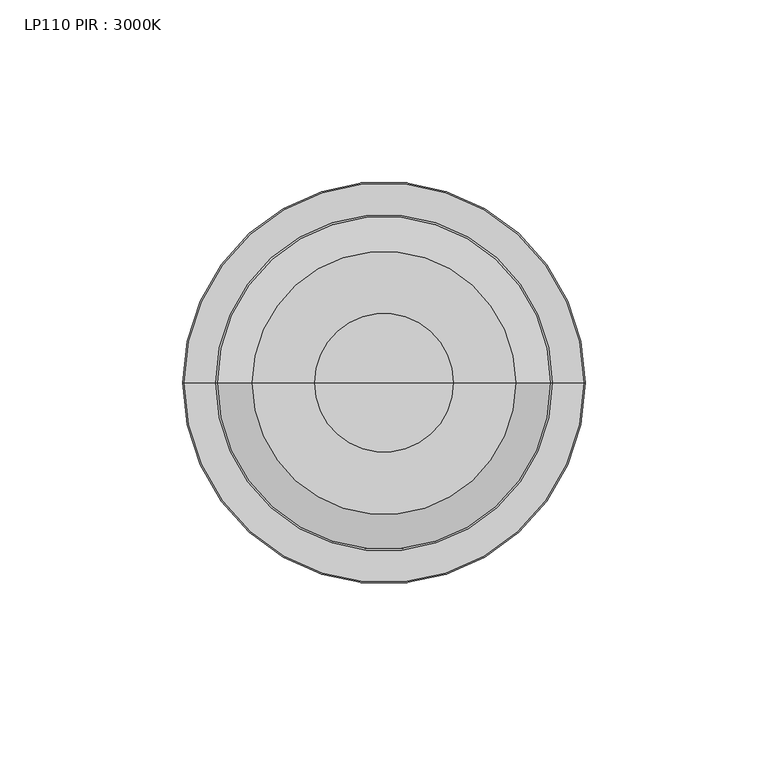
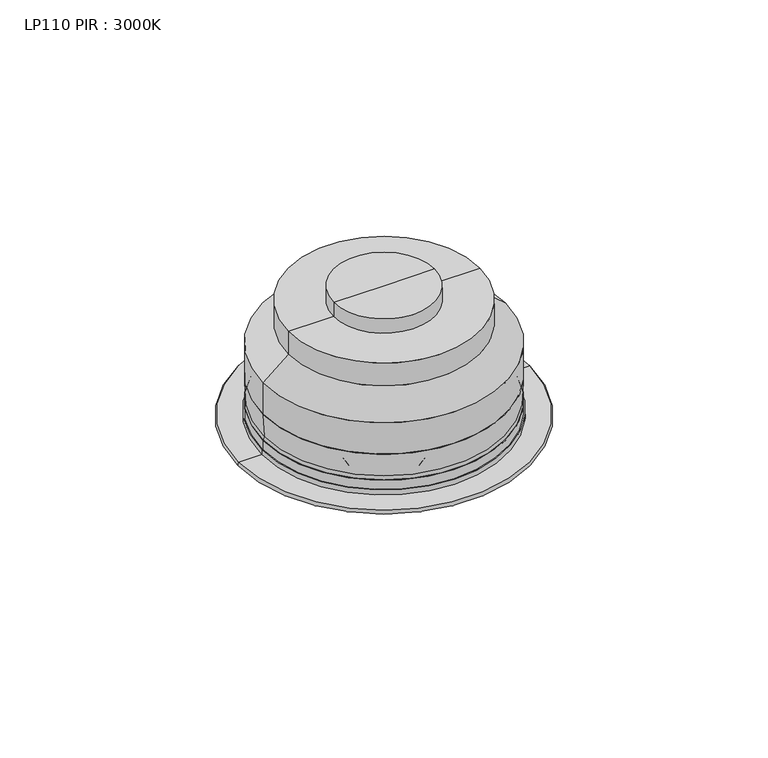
"""IFC4 building model written with IfcOpenShell, lengths in millimetres: light fixture geometry, LP110 PIR : 3000K."""

from ifc_helpers import new_model, si_unit, point, frame, frame_2d, origin, place, context, project, spatial, polyline, circle_curve, ellipse_curve, trimmed, segment, composite_curve, outline, extrude, source, transform, mapped, element, save
from ifc_brep_helpers import plane_surface, cylinder_surface, revolved_surface, advanced_brep


def lp110_pir_3000k_2e62d450(model_context):
    return source(origin(), model_context, "Body", "SolidModel", [
        advanced_brep(
        [(15.3930491, 0.0, 3987.9458918), (-15.3930491, 0.0, 3987.9458918), (0.0, 0.0, 3987.9458918), (14.8999618, 0.0, 3986.8884626), (-14.8999618, 0.0, 3986.8884626), (0.0, 0.0, 3976.9050825)],
        [
            (0, 1, circle_curve(frame((0.0, 0.0, 3987.9458918), z_axis=(0.0, 0.0, 1.0), x_axis=(-1.0, 0.0, 0.0)), 15.3930491)),
            (1, 2),
            (2, 0),
            (1, 0, circle_curve(frame((0.0, 0.0, 3987.9458918), z_axis=(0.0, 0.0, 1.0), x_axis=(-1.0, 0.0, 0.0)), 15.3930491)),
            (3, 4, circle_curve(frame((0.0, 0.0, 3986.8884626), z_axis=(0.0, 0.0, 1.0), x_axis=(-1.0, 0.0, 0.0)), 14.8999618)),
            (4, 1),
            (0, 3),
            (4, 3, circle_curve(frame((0.0, 0.0, 3986.8884626), z_axis=(0.0, 0.0, 1.0), x_axis=(-1.0, 0.0, 0.0)), 14.8999618)),
            (5, 4, circle_curve(frame((0.7998036, 0.0, 3994.2093834), z_axis=(0.0, 1.0, 0.0), x_axis=(1.0, 0.0, 0.0)), 17.3227744)),
            (3, 5, circle_curve(frame((-0.7998036, 0.0, 3994.2093834), z_axis=(0.0, 1.0, 0.0), x_axis=(-1.0, 0.0, 0.0)), 17.3227744)),
        ],
        [
            plane_surface(frame((0.0, 0.0, 3987.9458918), z_axis=(0.0, 0.0, 1.0), x_axis=(-1.0, 0.0, 0.0))),
            revolved_surface(polyline([(-15.3930491, 0.0, 3987.9458918), (-14.8999618, 0.0, 3986.8884626)]), (0.0, 0.0, 4324.4347907), (0.0, 0.0, -1.0)),
            revolved_surface(trimmed(ellipse_curve(frame((0.7998036, 0.0, 3994.2093834), z_axis=(0.0, -1.0, 0.0), x_axis=(1.0, 0.0, 0.0)), 17.3227744, 17.3227744), [point((-14.8999618, 0.0, 3986.8884626))], [point((0.0, 0.0, 3976.9050825))], True, "CARTESIAN"), (0.0, 0.0, 4324.4347907), (0.0, 0.0, -1.0)),
        ],
        [
            (0, [[1, 2, 3]]),
            (0, [[4, -3, -2]]),
            (1, [[5, 6, -1, 7]]),
            (1, [[8, -7, -4, -6]]),
            (2, [[9, -5, 10]]),
            (2, [[-10, -8, -9]]),
        ],
    ),
        advanced_brep(
        [(25.068584, 0.0, 3992.3208918), (-25.068584, 0.0, 3992.3208918), (0.0, 0.0, 3992.3208918), (15.3930491, 0.0, 3987.9458918), (-15.3930491, 0.0, 3987.9458918), (0.0, 0.0, 3987.9458918)],
        [
            (0, 1, circle_curve(frame((0.0, 0.0, 3992.3208918), z_axis=(0.0, 0.0, 1.0), x_axis=(-1.0, 0.0, 0.0)), 25.068584)),
            (1, 2),
            (2, 0),
            (1, 0, circle_curve(frame((0.0, 0.0, 3992.3208918), z_axis=(0.0, 0.0, 1.0), x_axis=(-1.0, 0.0, 0.0)), 25.068584)),
            (3, 4, circle_curve(frame((0.0, 0.0, 3987.9458918), z_axis=(0.0, 0.0, 1.0), x_axis=(-1.0, 0.0, 0.0)), 15.3930491)),
            (4, 1),
            (0, 3),
            (4, 3, circle_curve(frame((0.0, 0.0, 3987.9458918), z_axis=(0.0, 0.0, 1.0), x_axis=(-1.0, 0.0, 0.0)), 15.3930491)),
            (5, 4),
            (3, 5),
        ],
        [
            plane_surface(frame((0.0, 0.0, 3992.3208918), z_axis=(0.0, 0.0, 1.0), x_axis=(-1.0, 0.0, 0.0))),
            revolved_surface(polyline([(-25.068584, 0.0, 3992.3208918), (-15.3930491, 0.0, 3987.9458918)]), (0.0, 0.0, 4324.4347907), (0.0, 0.0, -1.0)),
            plane_surface(frame((0.0, 0.0, 3987.9458918), z_axis=(0.0, 0.0, -1.0), x_axis=(-1.0, 0.0, 0.0))),
        ],
        [
            (0, [[1, 2, 3]]),
            (0, [[4, -3, -2]]),
            (1, [[5, 6, -1, 7]]),
            (1, [[8, -7, -4, -6]]),
            (2, [[9, -5, 10]]),
            (2, [[-10, -8, -9]]),
        ],
    ),
        advanced_brep(
        [(25.068584, 0.0, 3992.3208918), (-25.068584, 0.0, 3992.3208918), (-30.7872894, 0.0, 3994.29), (30.7872894, 0.0, 3994.29), (0.0, 0.0, 3992.3208918), (0.0, 0.0, 3994.29)],
        [
            (0, 1, circle_curve(frame((0.0, 0.0, 3992.3208918), z_axis=(0.0, 0.0, 1.0), x_axis=(-1.0, 0.0, 0.0)), 25.068584)),
            (1, 2),
            (2, 3, circle_curve(frame((0.0, 0.0, 3994.29), z_axis=(0.0, 0.0, -1.0), x_axis=(-1.0, 0.0, 0.0)), 30.7872894)),
            (3, 0),
            (1, 0, circle_curve(frame((0.0, 0.0, 3992.3208918), z_axis=(0.0, 0.0, 1.0), x_axis=(-1.0, 0.0, 0.0)), 25.068584)),
            (3, 2, circle_curve(frame((0.0, 0.0, 3994.29), z_axis=(0.0, 0.0, -1.0), x_axis=(-1.0, 0.0, 0.0)), 30.7872894)),
            (4, 1),
            (0, 4),
            (2, 5),
            (5, 3),
        ],
        [
            revolved_surface(polyline([(-30.7872894, 0.0, 3994.29), (-25.068584, 0.0, 3992.3208918)]), (0.0, 0.0, 4324.4347907), (0.0, 0.0, -1.0)),
            plane_surface(frame((0.0, 0.0, 3992.3208918), z_axis=(0.0, 0.0, -1.0), x_axis=(-1.0, 0.0, 0.0))),
            plane_surface(frame((0.0, 0.0, 3994.29), z_axis=(0.0, 0.0, 1.0), x_axis=(-1.0, 0.0, 0.0))),
        ],
        [
            (0, [[1, 2, 3, 4]]),
            (0, [[5, -4, 6, -2]]),
            (1, [[7, -1, 8]]),
            (1, [[-8, -5, -7]]),
            (2, [[-3, 9, 10]]),
            (2, [[-6, -10, -9]]),
        ],
    ),
        advanced_brep(
        [(-18.9752528, 0.0, 4045.33), (18.9752528, 0.0, 4045.33), (0.0, 0.0, 4045.33), (-18.9752528, 0.0, 4050.97), (18.9752528, 0.0, 4050.97), (0.0, 0.0, 4050.97)],
        [
            (0, 1, circle_curve(frame((0.0, 0.0, 4045.33), z_axis=(0.0, 0.0, -1.0), x_axis=(1.0, 0.0, 0.0)), 18.9752528)),
            (1, 2),
            (2, 0),
            (1, 0, circle_curve(frame((0.0, 0.0, 4045.33), z_axis=(0.0, 0.0, -1.0), x_axis=(1.0, 0.0, 0.0)), 18.9752528)),
            (3, 4, circle_curve(frame((0.0, 0.0, 4050.97), z_axis=(0.0, 0.0, -1.0), x_axis=(1.0, 0.0, 0.0)), 18.9752528)),
            (4, 1),
            (0, 3),
            (4, 3, circle_curve(frame((0.0, 0.0, 4050.97), z_axis=(0.0, 0.0, -1.0), x_axis=(1.0, 0.0, 0.0)), 18.9752528)),
            (5, 4),
            (3, 5),
        ],
        [
            plane_surface(frame((0.0, 0.0, 4045.33), z_axis=(0.0, 0.0, -1.0), x_axis=(1.0, 0.0, 0.0))),
            cylinder_surface(frame((0.0, 0.0, 4324.4347907), z_axis=(0.0, 0.0, 1.0), x_axis=(1.0, 0.0, 0.0)), 18.9752528),
            plane_surface(frame((0.0, 0.0, 4050.97), z_axis=(0.0, 0.0, 1.0), x_axis=(1.0, 0.0, 0.0))),
        ],
        [
            (0, [[1, 2, 3]]),
            (0, [[4, -3, -2]]),
            (1, [[5, 6, -1, 7]]),
            (1, [[8, -7, -4, -6]]),
            (2, [[9, -5, 10]]),
            (2, [[-10, -8, -9]]),
        ],
    ),
        advanced_brep(
        [(-45.5028187, 0.0, 4001.88), (45.5028187, 0.0, 4001.88), (0.0, 0.0, 4001.88), (-45.5028187, 0.0, 4005.3318994), (45.5028187, 0.0, 4005.3318994), (0.0, 0.0, 4005.3318994)],
        [
            (0, 1, circle_curve(frame((0.0, 0.0, 4001.88), z_axis=(0.0, 0.0, -1.0), x_axis=(1.0, 0.0, 0.0)), 45.5028187)),
            (1, 2),
            (2, 0),
            (1, 0, circle_curve(frame((0.0, 0.0, 4001.88), z_axis=(0.0, 0.0, -1.0), x_axis=(1.0, 0.0, 0.0)), 45.5028187)),
            (3, 4, circle_curve(frame((0.0, 0.0, 4005.3318994), z_axis=(0.0, 0.0, -1.0), x_axis=(1.0, 0.0, 0.0)), 45.5028187)),
            (4, 1),
            (0, 3),
            (4, 3, circle_curve(frame((0.0, 0.0, 4005.3318994), z_axis=(0.0, 0.0, -1.0), x_axis=(1.0, 0.0, 0.0)), 45.5028187)),
            (5, 4),
            (3, 5),
        ],
        [
            plane_surface(frame((0.0, 0.0, 4001.88), z_axis=(0.0, 0.0, -1.0), x_axis=(1.0, 0.0, 0.0))),
            cylinder_surface(frame((0.0, 0.0, 4324.4347907), z_axis=(0.0, 0.0, 1.0), x_axis=(1.0, 0.0, 0.0)), 45.5028187),
            plane_surface(frame((0.0, 0.0, 4005.3318994), z_axis=(0.0, 0.0, 1.0), x_axis=(1.0, 0.0, 0.0))),
        ],
        [
            (0, [[1, 2, 3]]),
            (0, [[4, -3, -2]]),
            (1, [[5, 6, -1, 7]]),
            (1, [[8, -7, -4, -6]]),
            (2, [[9, -5, 10]]),
            (2, [[-10, -8, -9]]),
        ],
    ),
        advanced_brep(
        [(-45.0440523, 0.0, 4006.93), (45.0440523, 0.0, 4006.93), (0.0, 0.0, 4006.93), (-45.5, 0.0, 4015.63), (45.5, 0.0, 4015.63), (0.0, 0.0, 4015.63)],
        [
            (0, 1, circle_curve(frame((0.0, 0.0, 4006.93), z_axis=(0.0, 0.0, -1.0), x_axis=(1.0, 0.0, 0.0)), 45.0440523)),
            (1, 2),
            (2, 0),
            (1, 0, circle_curve(frame((0.0, 0.0, 4006.93), z_axis=(0.0, 0.0, -1.0), x_axis=(1.0, 0.0, 0.0)), 45.0440523)),
            (3, 4, circle_curve(frame((0.0, 0.0, 4015.63), z_axis=(0.0, 0.0, -1.0), x_axis=(1.0, 0.0, 0.0)), 45.5)),
            (4, 1),
            (0, 3),
            (4, 3, circle_curve(frame((0.0, 0.0, 4015.63), z_axis=(0.0, 0.0, -1.0), x_axis=(1.0, 0.0, 0.0)), 45.5)),
            (5, 4),
            (3, 5),
        ],
        [
            plane_surface(frame((0.0, 0.0, 4006.93), z_axis=(0.0, 0.0, -1.0), x_axis=(1.0, 0.0, 0.0))),
            revolved_surface(polyline([(45.0440523, 0.0, 4006.93), (45.5, 0.0, 4015.63)]), (0.0, 0.0, 4324.4347907), (0.0, 0.0, 1.0)),
            plane_surface(frame((0.0, 0.0, 4015.63), z_axis=(0.0, 0.0, 1.0), x_axis=(1.0, 0.0, 0.0))),
        ],
        [
            (0, [[1, 2, 3]]),
            (0, [[4, -3, -2]]),
            (1, [[5, 6, -1, 7]]),
            (1, [[8, -7, -4, -6]]),
            (2, [[9, -5, 10]]),
            (2, [[-10, -8, -9]]),
        ],
    ),
        advanced_brep(
        [(-45.5028187, 0.0, 4005.3318994), (45.5028187, 0.0, 4005.3318994), (0.0, 0.0, 4005.3318994), (-43.9047181, 0.0, 4006.93), (43.9047181, 0.0, 4006.93), (0.0, 0.0, 4006.93)],
        [
            (0, 1, circle_curve(frame((0.0, 0.0, 4005.3318994), z_axis=(0.0, 0.0, -1.0), x_axis=(1.0, 0.0, 0.0)), 45.5028187)),
            (1, 2),
            (2, 0),
            (1, 0, circle_curve(frame((0.0, 0.0, 4005.3318994), z_axis=(0.0, 0.0, -1.0), x_axis=(1.0, 0.0, 0.0)), 45.5028187)),
            (3, 4, circle_curve(frame((0.0, 0.0, 4006.93), z_axis=(0.0, 0.0, -1.0), x_axis=(1.0, 0.0, 0.0)), 43.9047181)),
            (4, 1, circle_curve(frame((43.9047181, 0.0, 4005.3318994), z_axis=(0.0, 1.0, 0.0), x_axis=(1.0, 0.0, 0.0)), 1.5981006)),
            (0, 3, circle_curve(frame((-43.9047181, 0.0, 4005.3318994), z_axis=(0.0, 1.0, 0.0), x_axis=(-1.0, 0.0, 0.0)), 1.5981006)),
            (4, 3, circle_curve(frame((0.0, 0.0, 4006.93), z_axis=(0.0, 0.0, -1.0), x_axis=(1.0, 0.0, 0.0)), 43.9047181)),
            (5, 4),
            (3, 5),
        ],
        [
            plane_surface(frame((0.0, 0.0, 4005.3318994), z_axis=(0.0, 0.0, -1.0), x_axis=(1.0, 0.0, 0.0))),
            revolved_surface(trimmed(ellipse_curve(frame((43.9047181, 0.0, 4005.3318994), z_axis=(0.0, -1.0, 0.0), x_axis=(1.0, 0.0, 0.0)), 1.5981006, 1.5981006), [point((45.5028187, 0.0, 4005.3318994))], [point((43.9047181, 0.0, 4006.93))], True, "CARTESIAN"), (0.0, 0.0, 3993.7591953), (0.0, 0.0, 1.0)),
            plane_surface(frame((0.0, 0.0, 4006.93), z_axis=(0.0, 0.0, 1.0), x_axis=(1.0, 0.0, 0.0))),
        ],
        [
            (0, [[1, 2, 3]]),
            (0, [[4, -3, -2]]),
            (1, [[5, 6, -1, 7]]),
            (1, [[8, -7, -4, -6]]),
            (2, [[9, -5, 10]]),
            (2, [[-10, -8, -9]]),
        ],
    ),
        advanced_brep(
        [(-46.0, 0.0, 4000.0), (46.0, 0.0, 4000.0), (0.0, 0.0, 4000.0), (-46.0, 0.0, 4001.88), (46.0, 0.0, 4001.88), (0.0, 0.0, 4001.88)],
        [
            (0, 1, circle_curve(frame((0.0, 0.0, 4000.0), z_axis=(0.0, 0.0, -1.0), x_axis=(1.0, 0.0, 0.0)), 46.0)),
            (1, 2),
            (2, 0),
            (1, 0, circle_curve(frame((0.0, 0.0, 4000.0), z_axis=(0.0, 0.0, -1.0), x_axis=(1.0, 0.0, 0.0)), 46.0)),
            (3, 4, circle_curve(frame((0.0, 0.0, 4001.88), z_axis=(0.0, 0.0, -1.0), x_axis=(1.0, 0.0, 0.0)), 46.0)),
            (4, 1),
            (0, 3),
            (4, 3, circle_curve(frame((0.0, 0.0, 4001.88), z_axis=(0.0, 0.0, -1.0), x_axis=(1.0, 0.0, 0.0)), 46.0)),
            (5, 4),
            (3, 5),
        ],
        [
            plane_surface(frame((0.0, 0.0, 4000.0), z_axis=(0.0, 0.0, -1.0), x_axis=(1.0, 0.0, 0.0))),
            cylinder_surface(frame((0.0, 0.0, 3993.7591953), z_axis=(0.0, 0.0, 1.0), x_axis=(1.0, 0.0, 0.0)), 46.0),
            plane_surface(frame((0.0, 0.0, 4001.88), z_axis=(0.0, 0.0, 1.0), x_axis=(1.0, 0.0, 0.0))),
        ],
        [
            (0, [[1, 2, 3]]),
            (0, [[4, -3, -2]]),
            (1, [[5, 6, -1, 7]]),
            (1, [[8, -7, -4, -6]]),
            (2, [[9, -5, 10]]),
            (2, [[-10, -8, -9]]),
        ],
    ),
        advanced_brep(
        [(-18.9752528, 0.0, 4045.33), (18.9752528, 0.0, 4045.33), (0.0, 0.0, 4045.33), (-18.9752528, 0.0, 4050.97), (18.9752528, 0.0, 4050.97), (0.0, 0.0, 4050.97)],
        [
            (0, 1, circle_curve(frame((0.0, 0.0, 4045.33), z_axis=(0.0, 0.0, -1.0), x_axis=(1.0, 0.0, 0.0)), 18.9752528)),
            (1, 2),
            (2, 0),
            (1, 0, circle_curve(frame((0.0, 0.0, 4045.33), z_axis=(0.0, 0.0, -1.0), x_axis=(1.0, 0.0, 0.0)), 18.9752528)),
            (3, 4, circle_curve(frame((0.0, 0.0, 4050.97), z_axis=(0.0, 0.0, -1.0), x_axis=(1.0, 0.0, 0.0)), 18.9752528)),
            (4, 1),
            (0, 3),
            (4, 3, circle_curve(frame((0.0, 0.0, 4050.97), z_axis=(0.0, 0.0, -1.0), x_axis=(1.0, 0.0, 0.0)), 18.9752528)),
            (5, 4),
            (3, 5),
        ],
        [
            plane_surface(frame((0.0, 0.0, 4045.33), z_axis=(0.0, 0.0, -1.0), x_axis=(1.0, 0.0, 0.0))),
            cylinder_surface(frame((0.0, 0.0, 4324.4347907), z_axis=(0.0, 0.0, 1.0), x_axis=(1.0, 0.0, 0.0)), 18.9752528),
            plane_surface(frame((0.0, 0.0, 4050.97), z_axis=(0.0, 0.0, 1.0), x_axis=(1.0, 0.0, 0.0))),
        ],
        [
            (0, [[1, 2, 3]]),
            (0, [[4, -3, -2]]),
            (1, [[5, 6, -1, 7]]),
            (1, [[8, -7, -4, -6]]),
            (2, [[9, -5, 10]]),
            (2, [[-10, -8, -9]]),
        ],
    ),
        advanced_brep(
        [(-45.5, 0.0, 4015.63), (45.5, 0.0, 4015.63), (0.0, 0.0, 4015.63), (-45.5, 0.0, 4028.2753696), (45.5, 0.0, 4028.2753696), (-35.9723705, 0.0, 4036.27), (35.9723705, 0.0, 4036.27), (-35.9723705, 0.0, 4045.33), (35.9723705, 0.0, 4045.33), (0.0, 0.0, 4045.33)],
        [
            (0, 1, circle_curve(frame((0.0, 0.0, 4015.63), z_axis=(0.0, 0.0, -1.0), x_axis=(1.0, 0.0, 0.0)), 45.5)),
            (1, 2),
            (2, 0),
            (1, 0, circle_curve(frame((0.0, 0.0, 4015.63), z_axis=(0.0, 0.0, -1.0), x_axis=(1.0, 0.0, 0.0)), 45.5)),
            (3, 4, circle_curve(frame((0.0, 0.0, 4028.2753696), z_axis=(0.0, 0.0, -1.0), x_axis=(1.0, 0.0, 0.0)), 45.5)),
            (4, 1),
            (0, 3),
            (4, 3, circle_curve(frame((0.0, 0.0, 4028.2753696), z_axis=(0.0, 0.0, -1.0), x_axis=(1.0, 0.0, 0.0)), 45.5)),
            (5, 6, circle_curve(frame((0.0, 0.0, 4036.27), z_axis=(0.0, 0.0, -1.0), x_axis=(1.0, 0.0, 0.0)), 35.9723705)),
            (6, 4),
            (3, 5),
            (6, 5, circle_curve(frame((0.0, 0.0, 4036.27), z_axis=(0.0, 0.0, -1.0), x_axis=(1.0, 0.0, 0.0)), 35.9723705)),
            (7, 8, circle_curve(frame((0.0, 0.0, 4045.33), z_axis=(0.0, 0.0, -1.0), x_axis=(1.0, 0.0, 0.0)), 35.9723705)),
            (8, 6),
            (5, 7),
            (8, 7, circle_curve(frame((0.0, 0.0, 4045.33), z_axis=(0.0, 0.0, -1.0), x_axis=(1.0, 0.0, 0.0)), 35.9723705)),
            (9, 8),
            (7, 9),
        ],
        [
            plane_surface(frame((0.0, 0.0, 4015.63), z_axis=(0.0, 0.0, -1.0), x_axis=(1.0, 0.0, 0.0))),
            cylinder_surface(frame((0.0, 0.0, 4324.4347907), z_axis=(0.0, 0.0, 1.0), x_axis=(1.0, 0.0, 0.0)), 45.5),
            revolved_surface(polyline([(45.5, 0.0, 4028.2753696), (35.9723705, 0.0, 4036.27)]), (0.0, 0.0, 4324.4347907), (0.0, 0.0, 1.0)),
            cylinder_surface(frame((0.0, 0.0, 4324.4347907), z_axis=(0.0, 0.0, 1.0), x_axis=(1.0, 0.0, 0.0)), 35.9723705),
            plane_surface(frame((0.0, 0.0, 4045.33), z_axis=(0.0, 0.0, 1.0), x_axis=(1.0, 0.0, 0.0))),
        ],
        [
            (0, [[1, 2, 3]]),
            (0, [[4, -3, -2]]),
            (1, [[5, 6, -1, 7]]),
            (1, [[8, -7, -4, -6]]),
            (2, [[9, 10, -5, 11]]),
            (2, [[12, -11, -8, -10]]),
            (3, [[13, 14, -9, 15]]),
            (3, [[16, -15, -12, -14]]),
            (4, [[17, -13, 18]]),
            (4, [[-18, -16, -17]]),
        ],
    ),
        extrude(outline(composite_curve([segment(trimmed(circle_curve(frame_2d((0.153956, -0.1564231)), 40.0), [point((-39.846044, -0.1564231))], [point((40.153956, -0.1564231))], False, "CARTESIAN"), True, "CONTINUOUS"), segment(trimmed(circle_curve(frame_2d((0.153956, -0.1564231)), 40.0), [point((40.153956, -0.1564231))], [point((-39.846044, -0.1564231))], False, "CARTESIAN"), True, "CONTINUOUS")], self_intersect=False), holes=[composite_curve([segment(trimmed(circle_curve(frame_2d((0.153956, -0.1564231)), 29.1123547), [point((-28.9583987, -0.1564231))], [point((29.2663107, -0.1564231))], True, "CARTESIAN"), True, "CONTINUOUS"), segment(trimmed(circle_curve(frame_2d((0.153956, -0.1564231)), 29.1123547), [point((29.2663107, -0.1564231))], [point((-28.9583987, -0.1564231))], True, "CARTESIAN"), True, "CONTINUOUS")], self_intersect=False)]), frame((0.0, 0.0, 3994.29), z_axis=(0.0, 0.0, 1.0), x_axis=(1.0, 0.0, 0.0)), (0.0, 0.0, 1.0), 0.5),
        advanced_brep(
        [(-45.5028187, 0.0, 4001.88), (45.5028187, 0.0, 4001.88), (0.0, 0.0, 4001.88), (-45.5028187, 0.0, 4005.3318994), (45.5028187, 0.0, 4005.3318994), (0.0, 0.0, 4005.3318994)],
        [
            (0, 1, circle_curve(frame((0.0, 0.0, 4001.88), z_axis=(0.0, 0.0, -1.0), x_axis=(1.0, 0.0, 0.0)), 45.5028187)),
            (1, 2),
            (2, 0),
            (1, 0, circle_curve(frame((0.0, 0.0, 4001.88), z_axis=(0.0, 0.0, -1.0), x_axis=(1.0, 0.0, 0.0)), 45.5028187)),
            (3, 4, circle_curve(frame((0.0, 0.0, 4005.3318994), z_axis=(0.0, 0.0, -1.0), x_axis=(1.0, 0.0, 0.0)), 45.5028187)),
            (4, 1),
            (0, 3),
            (4, 3, circle_curve(frame((0.0, 0.0, 4005.3318994), z_axis=(0.0, 0.0, -1.0), x_axis=(1.0, 0.0, 0.0)), 45.5028187)),
            (5, 4),
            (3, 5),
        ],
        [
            plane_surface(frame((0.0, 0.0, 4001.88), z_axis=(0.0, 0.0, -1.0), x_axis=(1.0, 0.0, 0.0))),
            cylinder_surface(frame((0.0, 0.0, 4324.4347907), z_axis=(0.0, 0.0, 1.0), x_axis=(1.0, 0.0, 0.0)), 45.5028187),
            plane_surface(frame((0.0, 0.0, 4005.3318994), z_axis=(0.0, 0.0, 1.0), x_axis=(1.0, 0.0, 0.0))),
        ],
        [
            (0, [[1, 2, 3]]),
            (0, [[4, -3, -2]]),
            (1, [[5, 6, -1, 7]]),
            (1, [[8, -7, -4, -6]]),
            (2, [[9, -5, 10]]),
            (2, [[-10, -8, -9]]),
        ],
    ),
        advanced_brep(
        [(-45.0440523, 0.0, 4006.93), (45.0440523, 0.0, 4006.93), (0.0, 0.0, 4006.93), (-45.5, 0.0, 4015.63), (45.5, 0.0, 4015.63), (0.0, 0.0, 4015.63)],
        [
            (0, 1, circle_curve(frame((0.0, 0.0, 4006.93), z_axis=(0.0, 0.0, -1.0), x_axis=(1.0, 0.0, 0.0)), 45.0440523)),
            (1, 2),
            (2, 0),
            (1, 0, circle_curve(frame((0.0, 0.0, 4006.93), z_axis=(0.0, 0.0, -1.0), x_axis=(1.0, 0.0, 0.0)), 45.0440523)),
            (3, 4, circle_curve(frame((0.0, 0.0, 4015.63), z_axis=(0.0, 0.0, -1.0), x_axis=(1.0, 0.0, 0.0)), 45.5)),
            (4, 1),
            (0, 3),
            (4, 3, circle_curve(frame((0.0, 0.0, 4015.63), z_axis=(0.0, 0.0, -1.0), x_axis=(1.0, 0.0, 0.0)), 45.5)),
            (5, 4),
            (3, 5),
        ],
        [
            plane_surface(frame((0.0, 0.0, 4006.93), z_axis=(0.0, 0.0, -1.0), x_axis=(1.0, 0.0, 0.0))),
            revolved_surface(polyline([(45.0440523, 0.0, 4006.93), (45.5, 0.0, 4015.63)]), (0.0, 0.0, 4324.4347907), (0.0, 0.0, 1.0)),
            plane_surface(frame((0.0, 0.0, 4015.63), z_axis=(0.0, 0.0, 1.0), x_axis=(1.0, 0.0, 0.0))),
        ],
        [
            (0, [[1, 2, 3]]),
            (0, [[4, -3, -2]]),
            (1, [[5, 6, -1, 7]]),
            (1, [[8, -7, -4, -6]]),
            (2, [[9, -5, 10]]),
            (2, [[-10, -8, -9]]),
        ],
    ),
        advanced_brep(
        [(-45.5028187, 0.0, 4005.3318994), (45.5028187, 0.0, 4005.3318994), (0.0, 0.0, 4005.3318994), (-43.9047181, 0.0, 4006.93), (43.9047181, 0.0, 4006.93), (0.0, 0.0, 4006.93)],
        [
            (0, 1, circle_curve(frame((0.0, 0.0, 4005.3318994), z_axis=(0.0, 0.0, -1.0), x_axis=(1.0, 0.0, 0.0)), 45.5028187)),
            (1, 2),
            (2, 0),
            (1, 0, circle_curve(frame((0.0, 0.0, 4005.3318994), z_axis=(0.0, 0.0, -1.0), x_axis=(1.0, 0.0, 0.0)), 45.5028187)),
            (3, 4, circle_curve(frame((0.0, 0.0, 4006.93), z_axis=(0.0, 0.0, -1.0), x_axis=(1.0, 0.0, 0.0)), 43.9047181)),
            (4, 1, circle_curve(frame((43.9047181, 0.0, 4005.3318994), z_axis=(0.0, 1.0, 0.0), x_axis=(1.0, 0.0, 0.0)), 1.5981006)),
            (0, 3, circle_curve(frame((-43.9047181, 0.0, 4005.3318994), z_axis=(0.0, 1.0, 0.0), x_axis=(-1.0, 0.0, 0.0)), 1.5981006)),
            (4, 3, circle_curve(frame((0.0, 0.0, 4006.93), z_axis=(0.0, 0.0, -1.0), x_axis=(1.0, 0.0, 0.0)), 43.9047181)),
            (5, 4),
            (3, 5),
        ],
        [
            plane_surface(frame((0.0, 0.0, 4005.3318994), z_axis=(0.0, 0.0, -1.0), x_axis=(1.0, 0.0, 0.0))),
            revolved_surface(trimmed(ellipse_curve(frame((43.9047181, 0.0, 4005.3318994), z_axis=(0.0, -1.0, 0.0), x_axis=(1.0, 0.0, 0.0)), 1.5981006, 1.5981006), [point((45.5028187, 0.0, 4005.3318994))], [point((43.9047181, 0.0, 4006.93))], True, "CARTESIAN"), (0.0, 0.0, 3993.7591953), (0.0, 0.0, 1.0)),
            plane_surface(frame((0.0, 0.0, 4006.93), z_axis=(0.0, 0.0, 1.0), x_axis=(1.0, 0.0, 0.0))),
        ],
        [
            (0, [[1, 2, 3]]),
            (0, [[4, -3, -2]]),
            (1, [[5, 6, -1, 7]]),
            (1, [[8, -7, -4, -6]]),
            (2, [[9, -5, 10]]),
            (2, [[-10, -8, -9]]),
        ],
    ),
        advanced_brep(
        [(-46.0, 0.0, 4000.0), (46.0, 0.0, 4000.0), (0.0, 0.0, 4000.0), (-46.0, 0.0, 4001.88), (46.0, 0.0, 4001.88), (0.0, 0.0, 4001.88)],
        [
            (0, 1, circle_curve(frame((0.0, 0.0, 4000.0), z_axis=(0.0, 0.0, -1.0), x_axis=(1.0, 0.0, 0.0)), 46.0)),
            (1, 2),
            (2, 0),
            (1, 0, circle_curve(frame((0.0, 0.0, 4000.0), z_axis=(0.0, 0.0, -1.0), x_axis=(1.0, 0.0, 0.0)), 46.0)),
            (3, 4, circle_curve(frame((0.0, 0.0, 4001.88), z_axis=(0.0, 0.0, -1.0), x_axis=(1.0, 0.0, 0.0)), 46.0)),
            (4, 1),
            (0, 3),
            (4, 3, circle_curve(frame((0.0, 0.0, 4001.88), z_axis=(0.0, 0.0, -1.0), x_axis=(1.0, 0.0, 0.0)), 46.0)),
            (5, 4),
            (3, 5),
        ],
        [
            plane_surface(frame((0.0, 0.0, 4000.0), z_axis=(0.0, 0.0, -1.0), x_axis=(1.0, 0.0, 0.0))),
            cylinder_surface(frame((0.0, 0.0, 3993.7591953), z_axis=(0.0, 0.0, 1.0), x_axis=(1.0, 0.0, 0.0)), 46.0),
            plane_surface(frame((0.0, 0.0, 4001.88), z_axis=(0.0, 0.0, 1.0), x_axis=(1.0, 0.0, 0.0))),
        ],
        [
            (0, [[1, 2, 3]]),
            (0, [[4, -3, -2]]),
            (1, [[5, 6, -1, 7]]),
            (1, [[8, -7, -4, -6]]),
            (2, [[9, -5, 10]]),
            (2, [[-10, -8, -9]]),
        ],
    ),
        advanced_brep(
        [(-54.4320431, 0.0, 3998.2898924), (54.4320431, 0.0, 3998.2898924), (47.8497028, 0.0, 3994.79), (-47.8497028, 0.0, 3994.79), (-54.7151231, 0.0, 4000.0), (54.7151231, 0.0, 4000.0), (-26.7465724, 0.0, 4000.0), (26.7465724, 0.0, 4000.0), (26.7465724, 0.0, 3994.79), (-26.7465724, 0.0, 3994.79)],
        [
            (0, 1, circle_curve(frame((0.0, 0.0, 3998.2898924), z_axis=(0.0, 0.0, -1.0), x_axis=(1.0, 0.0, 0.0)), 54.4320431)),
            (1, 2),
            (2, 3, circle_curve(frame((0.0, 0.0, 3994.79), z_axis=(0.0, 0.0, 1.0), x_axis=(1.0, 0.0, 0.0)), 47.8497028)),
            (3, 0),
            (1, 0, circle_curve(frame((0.0, 0.0, 3998.2898924), z_axis=(0.0, 0.0, -1.0), x_axis=(1.0, 0.0, 0.0)), 54.4320431)),
            (3, 2, circle_curve(frame((0.0, 0.0, 3994.79), z_axis=(0.0, 0.0, 1.0), x_axis=(1.0, 0.0, 0.0)), 47.8497028)),
            (4, 5, circle_curve(frame((0.0, 0.0, 4000.0), z_axis=(0.0, 0.0, -1.0), x_axis=(1.0, 0.0, 0.0)), 54.7151231)),
            (5, 1, circle_curve(frame((53.9198655, 0.0, 3999.2531583), z_axis=(0.0, 1.0, 0.0), x_axis=(1.0, 0.0, 0.0)), 1.0909661)),
            (0, 4, circle_curve(frame((-53.9198655, 0.0, 3999.2531583), z_axis=(0.0, 1.0, 0.0), x_axis=(-1.0, 0.0, 0.0)), 1.0909661)),
            (5, 4, circle_curve(frame((0.0, 0.0, 4000.0), z_axis=(0.0, 0.0, -1.0), x_axis=(1.0, 0.0, 0.0)), 54.7151231)),
            (6, 7, circle_curve(frame((0.0, 0.0, 4000.0), z_axis=(0.0, 0.0, -1.0), x_axis=(1.0, 0.0, 0.0)), 26.7465724)),
            (7, 5),
            (4, 6),
            (7, 6, circle_curve(frame((0.0, 0.0, 4000.0), z_axis=(0.0, 0.0, -1.0), x_axis=(1.0, 0.0, 0.0)), 26.7465724)),
            (2, 8),
            (8, 9, circle_curve(frame((0.0, 0.0, 3994.79), z_axis=(0.0, 0.0, 1.0), x_axis=(1.0, 0.0, 0.0)), 26.7465724)),
            (9, 3),
            (9, 8, circle_curve(frame((0.0, 0.0, 3994.79), z_axis=(0.0, 0.0, 1.0), x_axis=(1.0, 0.0, 0.0)), 26.7465724)),
            (8, 7),
            (6, 9),
        ],
        [
            revolved_surface(polyline([(47.8497028, 0.0, 3994.79), (54.4320431, 0.0, 3998.2898924)]), (0.0, 0.0, 4324.4347907), (0.0, 0.0, 1.0)),
            revolved_surface(trimmed(ellipse_curve(frame((53.9198655, 0.0, 3999.2531583), z_axis=(0.0, -1.0, 0.0), x_axis=(1.0, 0.0, 0.0)), 1.0909661, 1.0909661), [point((54.4320431, 0.0, 3998.2898924))], [point((54.7151231, 0.0, 4000.0))], True, "CARTESIAN"), (0.0, 0.0, 4324.4347907), (0.0, 0.0, 1.0)),
            plane_surface(frame((0.0, 0.0, 4000.0), z_axis=(0.0, 0.0, 1.0), x_axis=(1.0, 0.0, 0.0))),
            plane_surface(frame((0.0, 0.0, 3994.79), z_axis=(0.0, 0.0, -1.0), x_axis=(1.0, 0.0, 0.0))),
            revolved_surface(polyline([(26.7465724, 0.0, 4000.0), (26.7465724, 0.0, 3994.79)]), (0.0, 0.0, 4324.4347907), (0.0, 0.0, 1.0)),
        ],
        [
            (0, [[1, 2, 3, 4]]),
            (0, [[5, -4, 6, -2]]),
            (1, [[7, 8, -1, 9]]),
            (1, [[10, -9, -5, -8]]),
            (2, [[11, 12, -7, 13]]),
            (2, [[14, -13, -10, -12]]),
            (3, [[-3, 15, 16, 17]]),
            (3, [[-6, -17, 18, -15]]),
            (4, [[-16, 19, -11, 20]]),
            (4, [[-18, -20, -14, -19]]),
        ],
    ),
    ])


if __name__ == "__main__":
    model = new_model("IFC4")
    model_context = context("Model", 3, world=origin())
    ifc_project = project(units=[si_unit("LENGTHUNIT", "METRE", prefix="MILLI")], contexts=[model_context])
    site = spatial("IfcSite", under=ifc_project)
    building = spatial("IfcBuilding", under=site)
    placement = place(None, origin())
    lp110_pir_3000k_shape = lp110_pir_3000k_2e62d450(model_context)
    element("IfcLightFixture", 1, ObjectType="LP110 PIR : 3000K", at=placement, inside=building, context=model_context, shape_type="MappedRepresentation", body=[
        mapped(lp110_pir_3000k_shape, transform((0.0, 0.0, 0.0), x_axis=(1.0, 0.0, 0.0), y_axis=(0.0, 1.0, 0.0), z_axis=(0.0, 0.0, 1.0))),
    ])
    save(model, "model.ifc")
